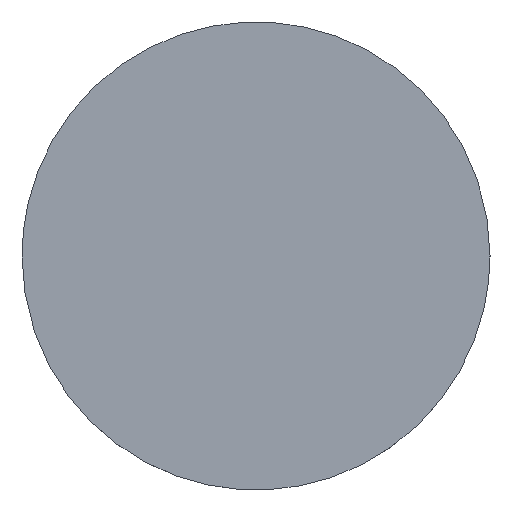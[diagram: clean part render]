
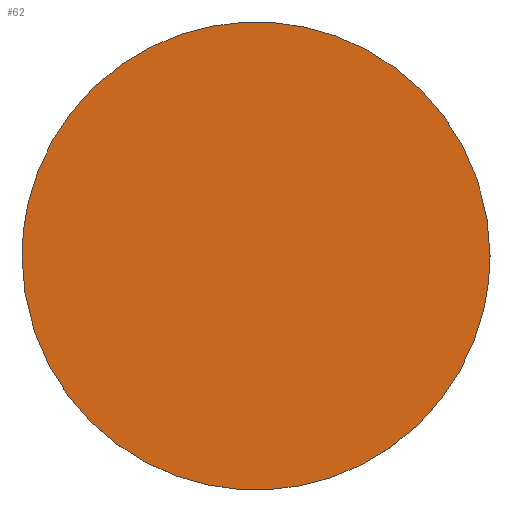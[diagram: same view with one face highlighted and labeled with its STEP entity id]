
A CAD part, top view. The second image highlights one B-rep face of the part: STEP entity #62.
In plain terms, the highlighted planar face has unit normal (0, 0, 1).
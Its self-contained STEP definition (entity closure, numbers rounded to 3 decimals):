
#62=ADVANCED_FACE('',(#110),#637,.T.);
#110=FACE_OUTER_BOUND('',#158,.T.);
#158=EDGE_LOOP('',(#220,#221));
#220=ORIENTED_EDGE('',*,*,#404,.T.);
#221=ORIENTED_EDGE('',*,*,#407,.T.);
#404=EDGE_CURVE('',#579,#581,#498,.T.);
#407=EDGE_CURVE('',#581,#579,#501,.T.);
#498=(
BOUNDED_CURVE()
B_SPLINE_CURVE(2,(#847,#848,#849,#850,#851),.UNSPECIFIED.,.F.,.F.)
B_SPLINE_CURVE_WITH_KNOTS((3,2,3),(0.,549.779,1099.557),
 .UNSPECIFIED.)
CURVE()
GEOMETRIC_REPRESENTATION_ITEM()
RATIONAL_B_SPLINE_CURVE((1.,0.707,1.,0.707,1.))
REPRESENTATION_ITEM('')
);
#501=(
BOUNDED_CURVE()
B_SPLINE_CURVE(2,(#859,#860,#861,#862,#863),.UNSPECIFIED.,.F.,.F.)
B_SPLINE_CURVE_WITH_KNOTS((3,2,3),(1099.557,1649.336,2199.115),
 .UNSPECIFIED.)
CURVE()
GEOMETRIC_REPRESENTATION_ITEM()
RATIONAL_B_SPLINE_CURVE((1.,0.707,1.,0.707,1.))
REPRESENTATION_ITEM('')
);
#579=VERTEX_POINT('',#837);
#581=VERTEX_POINT('',#839);
#637=PLANE('',#760);
#760=AXIS2_PLACEMENT_3D('',#834,#797,$);
#797=DIRECTION('',(0.,0.,1.));
#834=CARTESIAN_POINT('',(-437.5,-437.5,752.));
#837=CARTESIAN_POINT('',(350.,0.,752.));
#839=CARTESIAN_POINT('',(-350.,0.,752.));
#847=CARTESIAN_POINT('',(350.,0.,752.));
#848=CARTESIAN_POINT('',(350.,350.,752.));
#849=CARTESIAN_POINT('',(0.,350.,752.));
#850=CARTESIAN_POINT('',(-350.,350.,752.));
#851=CARTESIAN_POINT('',(-350.,0.,752.));
#859=CARTESIAN_POINT('',(-350.,0.,752.));
#860=CARTESIAN_POINT('',(-350.,-350.,752.));
#861=CARTESIAN_POINT('',(0.,-350.,752.));
#862=CARTESIAN_POINT('',(350.,-350.,752.));
#863=CARTESIAN_POINT('',(350.,0.,752.));
